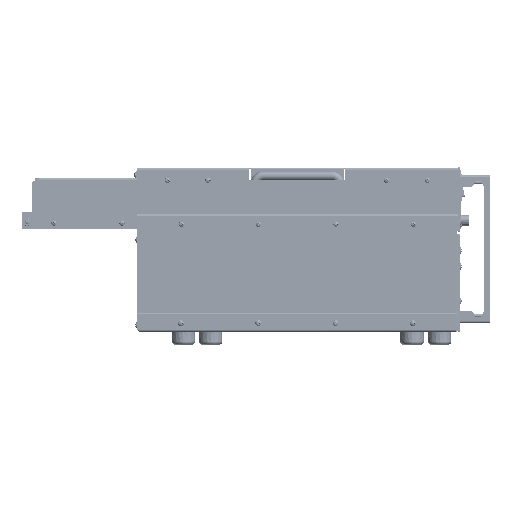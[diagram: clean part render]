
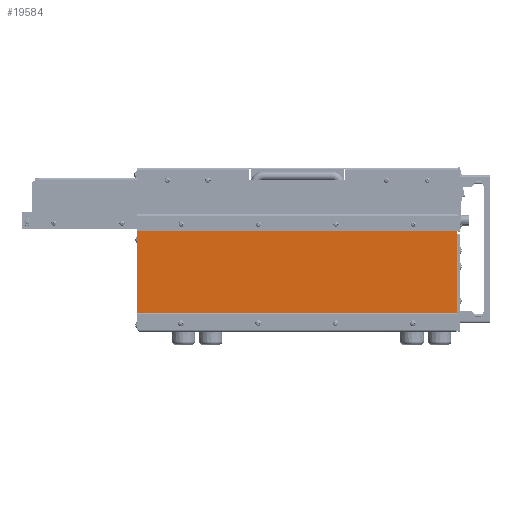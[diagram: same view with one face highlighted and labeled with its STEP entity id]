
A CAD part, left-side view. The second image highlights one B-rep face of the part: STEP entity #19584.
In plain terms, the highlighted planar face has unit normal (-1, 0, 0).
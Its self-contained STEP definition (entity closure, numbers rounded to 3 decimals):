
#19584=ADVANCED_FACE('',(#53543,#53544,#53545,#53546,#53547),#53548,.T.);
#53543=FACE_OUTER_BOUND('',#104175,.T.);
#53544=FACE_BOUND('',#104176,.T.);
#53545=FACE_BOUND('',#104177,.T.);
#53546=FACE_BOUND('',#104178,.T.);
#53547=FACE_BOUND('',#104179,.T.);
#53548=PLANE('',#104180);
#104175=EDGE_LOOP('',(#163971,#163972,#163973,#163974,#163975,#163976,#163977,#163978));
#104176=EDGE_LOOP('',(#163979,#163980));
#104177=EDGE_LOOP('',(#163981,#163982));
#104178=EDGE_LOOP('',(#163983,#163984));
#104179=EDGE_LOOP('',(#163985,#163986));
#104180=AXIS2_PLACEMENT_3D('',#163987,#163988,#163989);
#163971=ORIENTED_EDGE('',*,*,#284568,.F.);
#163972=ORIENTED_EDGE('',*,*,#284576,.T.);
#163973=ORIENTED_EDGE('',*,*,#284587,.F.);
#163974=ORIENTED_EDGE('',*,*,#284563,.F.);
#163975=ORIENTED_EDGE('',*,*,#284611,.T.);
#163976=ORIENTED_EDGE('',*,*,#284629,.F.);
#163977=ORIENTED_EDGE('',*,*,#284630,.F.);
#163978=ORIENTED_EDGE('',*,*,#284570,.F.);
#163979=ORIENTED_EDGE('',*,*,#284546,.T.);
#163980=ORIENTED_EDGE('',*,*,#284613,.T.);
#163981=ORIENTED_EDGE('',*,*,#284541,.T.);
#163982=ORIENTED_EDGE('',*,*,#284615,.T.);
#163983=ORIENTED_EDGE('',*,*,#284536,.T.);
#163984=ORIENTED_EDGE('',*,*,#284617,.T.);
#163985=ORIENTED_EDGE('',*,*,#284531,.T.);
#163986=ORIENTED_EDGE('',*,*,#284619,.T.);
#163987=CARTESIAN_POINT('',(546.234,604.229,24.048));
#163988=DIRECTION('',(-1.0,0.,0.));
#163989=DIRECTION('',(0.,0.,1.0));
#284531=EDGE_CURVE('',#337853,#337850,#337854,.T.);
#284536=EDGE_CURVE('',#337862,#337859,#337863,.T.);
#284541=EDGE_CURVE('',#337871,#337868,#337872,.T.);
#284546=EDGE_CURVE('',#337880,#337877,#337881,.T.);
#284563=EDGE_CURVE('',#337909,#337905,#337911,.T.);
#284568=EDGE_CURVE('',#337918,#337914,#337920,.T.);
#284570=EDGE_CURVE('',#337914,#337922,#337923,.T.);
#284576=EDGE_CURVE('',#337918,#337930,#337932,.T.);
#284587=EDGE_CURVE('',#337905,#337930,#337945,.T.);
#284611=EDGE_CURVE('',#337909,#337975,#337977,.T.);
#284613=EDGE_CURVE('',#337877,#337880,#337979,.T.);
#284615=EDGE_CURVE('',#337868,#337871,#337981,.T.);
#284617=EDGE_CURVE('',#337859,#337862,#337983,.T.);
#284619=EDGE_CURVE('',#337850,#337853,#337985,.T.);
#284629=EDGE_CURVE('',#337995,#337975,#337996,.T.);
#284630=EDGE_CURVE('',#337922,#337995,#337997,.T.);
#337850=VERTEX_POINT('',#415720);
#337853=VERTEX_POINT('',#415724);
#337854=CIRCLE('',#415725,2.5);
#337859=VERTEX_POINT('',#415731);
#337862=VERTEX_POINT('',#415735);
#337863=CIRCLE('',#415736,2.5);
#337868=VERTEX_POINT('',#415742);
#337871=VERTEX_POINT('',#415746);
#337872=CIRCLE('',#415747,2.5);
#337877=VERTEX_POINT('',#415753);
#337880=VERTEX_POINT('',#415757);
#337881=CIRCLE('',#415758,2.5);
#337905=VERTEX_POINT('',#415787);
#337909=VERTEX_POINT('',#415792);
#337911=CIRCLE('',#415795,1.457);
#337914=VERTEX_POINT('',#415798);
#337918=VERTEX_POINT('',#415803);
#337920=CIRCLE('',#415806,2.538);
#337922=VERTEX_POINT('',#415808);
#337923=CIRCLE('',#415809,2.538);
#337930=VERTEX_POINT('',#415818);
#337932=LINE('',#415821,#415822);
#337945=CIRCLE('',#415838,1.457);
#337975=VERTEX_POINT('',#415877);
#337977=LINE('',#415880,#415881);
#337979=CIRCLE('',#415883,2.5);
#337981=CIRCLE('',#415885,2.5);
#337983=CIRCLE('',#415887,2.5);
#337985=CIRCLE('',#415889,2.5);
#337995=VERTEX_POINT('',#415899);
#337996=LINE('',#415900,#415901);
#337997=LINE('',#415902,#415903);
#415720=CARTESIAN_POINT('',(546.234,974.979,79.473));
#415724=CARTESIAN_POINT('',(546.234,979.979,79.473));
#415725=AXIS2_PLACEMENT_3D('',#513365,#513366,#513367);
#415731=CARTESIAN_POINT('',(546.234,870.559,79.473));
#415735=CARTESIAN_POINT('',(546.234,875.559,79.473));
#415736=AXIS2_PLACEMENT_3D('',#513373,#513374,#513375);
#415742=CARTESIAN_POINT('',(546.234,766.149,79.473));
#415746=CARTESIAN_POINT('',(546.234,771.149,79.473));
#415747=AXIS2_PLACEMENT_3D('',#513381,#513382,#513383);
#415753=CARTESIAN_POINT('',(546.234,661.729,79.473));
#415757=CARTESIAN_POINT('',(546.234,666.729,79.473));
#415758=AXIS2_PLACEMENT_3D('',#513389,#513390,#513391);
#415787=CARTESIAN_POINT('',(546.234,1037.053,87.296));
#415792=CARTESIAN_POINT('',(546.234,1037.479,86.266));
#415795=AXIS2_PLACEMENT_3D('',#513417,#513418,#513419);
#415798=CARTESIAN_POINT('',(546.234,604.973,86.979));
#415803=CARTESIAN_POINT('',(546.234,606.767,87.723));
#415806=AXIS2_PLACEMENT_3D('',#513425,#513426,#513427);
#415808=CARTESIAN_POINT('',(546.234,604.229,85.185));
#415809=AXIS2_PLACEMENT_3D('',#513428,#513429,#513430);
#415818=CARTESIAN_POINT('',(546.234,1036.023,87.723));
#415821=CARTESIAN_POINT('',(546.234,604.229,87.723));
#415822=VECTOR('',#513437,1.0);
#415838=AXIS2_PLACEMENT_3D('',#513456,#513457,#513458);
#415877=CARTESIAN_POINT('',(546.234,1037.479,-39.627));
#415880=CARTESIAN_POINT('',(546.234,1037.479,87.723));
#415881=VECTOR('',#513493,1.0);
#415883=AXIS2_PLACEMENT_3D('',#513494,#513495,#513496);
#415885=AXIS2_PLACEMENT_3D('',#513497,#513498,#513499);
#415887=AXIS2_PLACEMENT_3D('',#513500,#513501,#513502);
#415889=AXIS2_PLACEMENT_3D('',#513503,#513504,#513505);
#415899=CARTESIAN_POINT('',(546.234,604.229,-39.627));
#415900=CARTESIAN_POINT('',(546.234,604.229,-39.627));
#415901=VECTOR('',#513518,1.0);
#415902=CARTESIAN_POINT('',(546.234,604.229,87.723));
#415903=VECTOR('',#513519,1.0);
#513365=CARTESIAN_POINT('',(546.234,977.479,79.473));
#513366=DIRECTION('',(1.0,0.,0.));
#513367=DIRECTION('',(0.,-1.0,0.));
#513373=CARTESIAN_POINT('',(546.234,873.059,79.473));
#513374=DIRECTION('',(1.0,0.,0.));
#513375=DIRECTION('',(0.,-1.0,0.));
#513381=CARTESIAN_POINT('',(546.234,768.649,79.473));
#513382=DIRECTION('',(1.0,0.,0.));
#513383=DIRECTION('',(0.,-1.0,0.));
#513389=CARTESIAN_POINT('',(546.234,664.229,79.473));
#513390=DIRECTION('',(1.0,0.,0.));
#513391=DIRECTION('',(0.,-1.0,0.));
#513417=CARTESIAN_POINT('',(546.234,1036.023,86.266));
#513418=DIRECTION('',(1.0,0.,0.));
#513419=DIRECTION('',(0.,0.707,0.707));
#513425=CARTESIAN_POINT('',(546.234,606.767,85.185));
#513426=DIRECTION('',(1.0,0.,0.));
#513427=DIRECTION('',(0.,-0.707,0.707));
#513428=CARTESIAN_POINT('',(546.234,606.767,85.185));
#513429=DIRECTION('',(1.0,0.,0.));
#513430=DIRECTION('',(0.,-0.707,0.707));
#513437=DIRECTION('',(0.0,1.0,0.0));
#513456=CARTESIAN_POINT('',(546.234,1036.023,86.266));
#513457=DIRECTION('',(1.0,0.,0.));
#513458=DIRECTION('',(0.,0.707,0.707));
#513493=DIRECTION('',(0.0,0.0,-1.0));
#513494=CARTESIAN_POINT('',(546.234,664.229,79.473));
#513495=DIRECTION('',(1.0,0.,0.));
#513496=DIRECTION('',(0.,-1.0,0.));
#513497=CARTESIAN_POINT('',(546.234,768.649,79.473));
#513498=DIRECTION('',(1.0,0.,0.));
#513499=DIRECTION('',(0.,-1.0,0.));
#513500=CARTESIAN_POINT('',(546.234,873.059,79.473));
#513501=DIRECTION('',(1.0,0.,0.));
#513502=DIRECTION('',(0.,-1.0,0.));
#513503=CARTESIAN_POINT('',(546.234,977.479,79.473));
#513504=DIRECTION('',(1.0,0.,0.));
#513505=DIRECTION('',(0.,-1.0,0.));
#513518=DIRECTION('',(0.0,1.0,0.0));
#513519=DIRECTION('',(0.0,0.0,-1.0));
